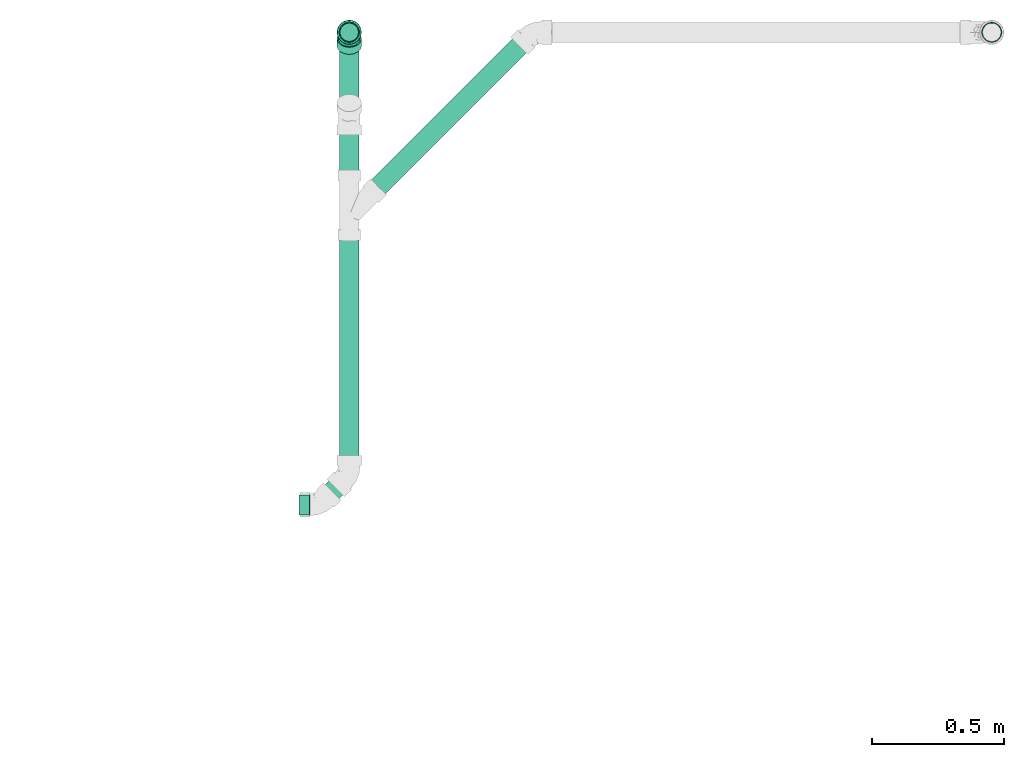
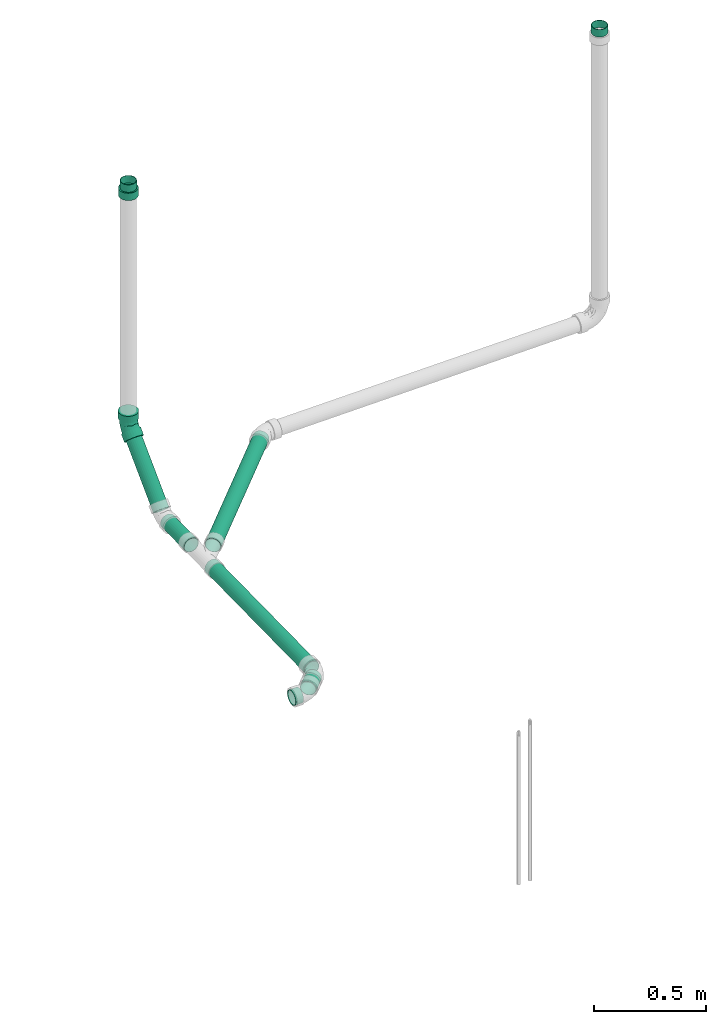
# One storey, part 8 of 18: 8 flow segments, 2 flow fittings.
"""IFC2X3 building model written with IfcOpenShell, lengths in millimetres."""

from ifc_helpers import new_model, entity, si_unit, converted_unit, derived_unit, direction, frame, origin_with_axes, origin_2d_with_axis, place, context, subcontext, project, spatial, hollow_circle, extrude, open_shell, surface_model, source, transform, mapped, type_object, element, save


model = new_model("IFC2X3")

# Units and contexts
model_context = context("Model", 3, precision=0.01, world=frame((0.0, 4.29681676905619e-09, 0.0)), true_north=direction((4.01073788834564e-13, 1.0)))
plan_context = context("Plan", 3, precision=0.01, world=frame((0.0, 4.29681676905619e-09, 0.0)), true_north=direction((4.01073788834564e-13, 1.0)))
body_context = subcontext(model_context, "Body", "Model", "MODEL_VIEW")
ifc_project = project(units=[converted_unit("PLANEANGLEUNIT", "DEGREE", entity("IfcPositiveLengthMeasure", 0.0174532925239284), si_unit("PLANEANGLEUNIT", "RADIAN"), dimensions=[0, 0, 0, 0, 0, 0, 0]), si_unit("AREAUNIT", "SQUARE_METRE"), si_unit("LENGTHUNIT", "METRE", prefix="MILLI"), si_unit("MASSUNIT", "GRAM", prefix="KILO"), si_unit("POWERUNIT", "WATT"), si_unit("PRESSUREUNIT", "PASCAL", prefix="KILO"), si_unit("FORCEUNIT", "NEWTON", prefix="KILO"), si_unit("ELECTRICVOLTAGEUNIT", "VOLT"), si_unit("ELECTRICCURRENTUNIT", "AMPERE"), si_unit("THERMODYNAMICTEMPERATUREUNIT", "DEGREE_CELSIUS"), si_unit("TIMEUNIT", "SECOND"), si_unit("VOLUMEUNIT", "CUBIC_METRE"), derived_unit("LINEARVELOCITYUNIT", [(si_unit("LENGTHUNIT", "METRE"), 1), (si_unit("TIMEUNIT", "SECOND"), -1)]), derived_unit("VOLUMETRICFLOWRATEUNIT", [(si_unit("VOLUMEUNIT", "CUBIC_METRE"), 1), (si_unit("TIMEUNIT", "SECOND"), -1)]), derived_unit("THERMALTRANSMITTANCEUNIT", [(si_unit("POWERUNIT", "WATT"), 1), (si_unit("THERMODYNAMICTEMPERATUREUNIT", "KELVIN"), -1), (si_unit("AREAUNIT", "SQUARE_METRE"), -1)]), derived_unit("SOUNDPRESSUREUNIT", [(si_unit("PRESSUREUNIT", "PASCAL"), 1)])], contexts=[model_context, plan_context])

# Site, building, storey
site_placement = place(None, frame((0.0, -4.29681676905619e-09, 0.0), z_axis=(0.0, 0.0, 1.0), x_axis=(1.0, 0.0, 0.0)))
site = spatial("IfcSite", under=ifc_project, at=site_placement, Name="ENGM", CompositionType="ELEMENT")
building_placement = place(site_placement, frame((0.0, 4.29681676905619e-09, 0.0), z_axis=(0.0, 0.0, 1.0), x_axis=(1.0, 0.0, 0.0)))
building = spatial("IfcBuilding", under=site, at=building_placement, Name="TI", CompositionType="ELEMENT")
storey_placement = place(building_placement, frame((0.0, 0.0, 204000.0), z_axis=(0.0, 0.0, 1.0), x_axis=(1.0, 0.0, 0.0)))
storey = spatial("IfcBuildingStorey", under=building, at=storey_placement, Name="Nivå D", CompositionType="ELEMENT", Elevation=204000.0)

# Flow fittings
pipe_fitting_type_1 = type_object("IfcPipeFittingType", Name="magi_sewer_bend_001", PredefinedType="BEND")
shared_shape_1 = source(origin_with_axes(), body_context, "Body", "SurfaceModel", [
    surface_model("IfcShellBasedSurfaceModel", [(-71.67262, -44.67407, -11.97038), (-71.67262, -11.97038, -44.67407), (-71.67262, -23.125, -40.05367), (-71.67262, -32.70369, -32.70369), (-71.67262, 0.0, -46.25), (-71.67262, -40.05367, -23.125), (-71.67262, -46.25, 0.0), (-71.67262, 11.97038, -44.67407), (-71.67262, 32.70369, -32.70369), (-71.67262, 23.125, -40.05367), (-71.67262, 44.67407, -11.97038), (-71.67262, 40.05367, -23.125), (-71.67262, -32.70369, 32.70369), (-71.67262, -44.67407, 11.97038), (-71.67262, -40.05367, 23.125), (-71.67262, 40.05367, 23.125), (-71.67262, -23.125, 40.05367), (-71.67262, -11.97038, 44.67407), (-71.67262, 0.0, 46.25), (-71.67262, 11.97038, 44.67407), (-71.67262, 44.67407, 11.97038), (-71.67262, 46.25, 0.0), (-71.67262, 23.125, 40.05367), (-71.67262, 32.70369, 32.70369), (-34.17262, 0.0, 46.25), (-34.17262, -11.97038, 44.67407), (-34.17262, -23.125, 40.05367), (-34.17262, -32.70369, 32.70369), (-34.17262, -40.05367, 23.125), (-34.17262, -44.67407, 11.97038), (-34.17262, 40.05367, 23.125), (-34.17262, -44.67407, -11.97038), (-34.17262, 23.125, 40.05367), (-34.17262, 32.70369, 32.70369), (-34.17262, 11.97038, 44.67407), (-34.17262, 44.67407, 11.97038), (-34.17262, 44.67407, -11.97038), (-34.17262, 46.25, 0.0), (-34.17262, -32.70369, -32.70369), (-34.17262, -40.05367, -23.125), (-34.17262, -23.125, -40.05367), (-34.17262, -11.97038, -44.67407), (-34.17262, 11.97038, -44.67407), (-34.17262, 32.70369, -32.70369), (-34.17262, 40.05367, -23.125), (-34.17262, 23.125, -40.05367), (-34.17262, 0.0, -46.25), (-34.17262, -46.25, 0.0), (22.35797, 79.00242, 23.125), (17.97651, 83.38388, 0.0), (19.09086, 82.26953, 11.97038), (34.32835, 67.03204, 40.05367), (27.55519, 73.8052, 32.70369), (42.21586, 59.14453, -44.67407), (67.03204, 34.32835, -40.05367), (42.21586, 59.14453, 44.67407), (19.09086, 82.26953, -11.97038), (27.55519, 73.8052, -32.70369), (22.35797, 79.00242, -23.125), (34.32835, 67.03204, -40.05367), (50.6802, 50.6802, 46.25), (59.14453, 42.21586, 44.67407), (67.03204, 34.32835, 40.05367), (73.8052, 27.55519, 32.70369), (79.00242, 22.35797, 23.125), (82.26953, 19.09086, 11.97038), (83.38388, 17.97651, 0.0), (59.14453, 42.21586, -44.67407), (50.6802, 50.6802, -46.25), (73.8052, 27.55519, -32.70369), (82.26953, 19.09086, -11.97038), (79.00242, 22.35797, -23.125), (40.51554, 7.81185, -40.05367), (56.86738, -8.54, 0.0), (55.75303, -7.42565, 11.97038), (52.48592, -4.15853, 23.125), (47.28869, 1.03869, 32.70369), (40.51554, 7.81185, 40.05367), (32.62803, 15.69935, 44.67407), (15.69935, 32.62803, 44.67407), (52.48592, -4.15853, -23.125), (47.28869, 1.03869, -32.70369), (55.75303, -7.42565, -11.97038), (32.62803, 15.69935, -44.67407), (15.69935, 32.62803, -44.67407), (24.16369, 24.16369, -46.25), (-7.42565, 55.75303, 11.97038), (7.81185, 40.51554, 40.05367), (-4.15853, 52.48592, 23.125), (1.03869, 47.28869, 32.70369), (-7.42565, 55.75303, -11.97038), (1.03869, 47.28869, -32.70369), (7.81185, 40.51554, -40.05367), (-4.15853, 52.48592, -23.125), (-8.54, 56.86738, 0.0), (24.16369, 24.16369, 46.25), (-34.17262, 10.67629, -39.84444), (-34.17262, 0.0, -41.25), (-34.17262, 35.72355, -20.625), (-34.17262, 20.625, -35.72355), (-34.17262, -10.67629, -39.84444), (-34.17262, 29.16816, -29.16816), (-34.17262, 39.84444, -10.67629), (-34.17262, -29.16816, -29.16816), (-34.17262, -35.72355, -20.625), (-34.17262, -20.625, -35.72355), (-34.17262, -39.84444, -10.67629), (-34.17262, -41.25, 0.0), (-34.17262, -39.84444, 10.67629), (-34.17262, 41.25, 0.0), (-34.17262, 35.72355, 20.625), (-34.17262, 39.84444, 10.67629), (-34.17262, 10.67629, 39.84444), (-34.17262, 20.625, 35.72355), (-34.17262, 29.16816, 29.16816), (-34.17262, -35.72355, 20.625), (-34.17262, -29.16816, 29.16816), (-34.17262, -10.67629, 39.84444), (-34.17262, -20.625, 35.72355), (-34.17262, 0.0, 41.25), (16.61442, 31.71296, -39.84444), (52.33797, -4.01058, -10.67629), (24.16369, 24.16369, -41.25), (9.57961, 38.74777, -35.72355), (3.53869, 44.78869, -29.16816), (-1.09667, 49.42405, -20.625), (-4.01058, 52.33797, -10.67629), (52.33797, -4.01058, 10.67629), (38.74777, 9.57961, -35.72355), (49.42405, -1.09667, -20.625), (44.78869, 3.53869, -29.16816), (31.71296, 16.61442, -39.84444), (53.33185, -5.00446, 0.0), (3.53869, 44.78869, 29.16816), (-5.00446, 53.33185, 0.0), (-4.01058, 52.33797, 10.67629), (-1.09667, 49.42405, 20.625), (9.57961, 38.74777, 35.72355), (16.61442, 31.71296, 39.84444), (24.16369, 24.16369, 41.25), (44.78869, 3.53869, 29.16816), (49.42405, -1.09667, 20.625), (31.71296, 16.61442, 39.84444), (38.74777, 9.57961, 35.72355), (10.50612, -25.36402, 22.98738), (-9.12592, -23.31355, 31.83011), (-13.32012, -31.54844, 24.15346), (-13.78242, -38.56558, 0.0), (-2.14376, -37.03332, 0.0), (-8.80455, -38.00287, 7.04384), (31.72686, -12.88936, 24.15346), (-16.3448, -15.12603, 37.70038), (4.23545, -10.22528, 37.18064), (1.2244, 24.79863, 38.50101), (7.45704, 19.5259, 40.65003), (-12.31128, -3.97165, 40.70351), (-3.92344, 9.47201, 41.10505), (-20.66814, 5.71607, 40.99967), (-11.71714, 28.28769, 33.67672), (-18.19114, 34.59421, 26.03152), (22.25324, 0.8618, 37.70038), (-15.84955, 17.16525, 38.56294), (15.91914, -26.99759, 16.25694), (-7.39626, -35.6875, 14.32507), (12.80708, -30.91902, 8.96571), (-16.99315, 41.02508, 16.94728), (33.09785, -20.64633, 7.04384), (37.01562, -17.52434, 0.0), (-16.52245, 44.20054, 8.66711), (30.46482, -20.00493, 14.32507), (11.51377, 5.89701, 40.70351), (22.93817, -10.03217, 31.83011), (-18.38693, 44.38997, 0.0), (6.92373, -16.71536, 32.89459), (12.77931, -30.85198, 0.0), (27.70238, -24.67064, 0.0), (-12.31128, -3.97165, -40.70351), (-8.80455, -38.00287, -7.04384), (12.80708, -30.91902, -8.96571), (11.51377, 5.89701, -40.70351), (-18.40106, 16.66949, -38.50101), (-19.07982, 8.53397, -40.65003), (-11.59873, 37.32487, -26.03152), (22.93817, -10.03217, -31.83011), (-16.99315, 41.02508, -16.94728), (30.46482, -20.00492, -14.32507), (-19.57136, 42.93764, -8.66711), (-0.93034, 23.34499, -38.56294), (-7.39626, -35.6875, -14.32507), (-11.71715, 28.28769, -33.67672), (-13.32012, -31.54844, -24.15346), (-9.12592, -23.31355, -31.83011), (6.92373, -16.71536, -32.89459), (10.50612, -25.36402, -22.98737), (-16.3448, -15.12603, -37.70038), (22.25324, 0.8618, -37.70038), (4.23545, -10.22528, -37.18064), (33.09785, -20.64633, -7.04384), (10.57272, 18.65645, -40.99967), (7.83365, -30.34671, -16.25694), (31.72686, -12.88936, -24.15346), (-3.92344, 9.47201, -41.10505)], [open_shell([[[0, 1, 2]], [[0, 2, 3]], [[1, 0, 4]], [[0, 3, 5]], [[4, 0, 6]], [[7, 8, 9]], [[8, 7, 4]], [[8, 10, 11]], [[10, 8, 4]], [[4, 6, 10]], [[6, 12, 10]], [[13, 14, 12]], [[10, 12, 15]], [[16, 17, 18]], [[16, 18, 12]], [[19, 12, 18]], [[10, 20, 21]], [[15, 20, 10]], [[15, 22, 23]], [[22, 15, 19]], [[12, 19, 15]], [[6, 13, 12]], [[24, 25, 26]], [[24, 26, 27]], [[27, 28, 29]], [[24, 27, 30]], [[27, 31, 30]], [[32, 30, 33]], [[30, 32, 34]], [[35, 36, 37]], [[30, 34, 24]], [[35, 30, 36]], [[27, 29, 31]], [[36, 30, 31]], [[38, 31, 39]], [[40, 41, 31]], [[40, 31, 38]], [[42, 31, 41]], [[36, 43, 44]], [[36, 31, 43]], [[43, 42, 45]], [[31, 42, 43]], [[41, 46, 42]], [[31, 29, 47]], [[36, 10, 37]], [[44, 11, 36]], [[9, 43, 45]], [[44, 43, 8]], [[7, 45, 42]], [[36, 11, 10]], [[10, 21, 37]], [[7, 9, 45]], [[8, 43, 9]], [[8, 11, 44]], [[4, 7, 42]], [[42, 46, 4]], [[46, 41, 1]], [[5, 39, 31]], [[39, 3, 38]], [[0, 31, 47]], [[1, 40, 2]], [[40, 1, 41]], [[40, 38, 2]], [[38, 3, 2]], [[39, 5, 3]], [[0, 5, 31]], [[47, 6, 0]], [[46, 1, 4]], [[29, 13, 47]], [[28, 14, 29]], [[16, 27, 26]], [[28, 27, 12]], [[17, 26, 25]], [[29, 14, 13]], [[13, 6, 47]], [[17, 16, 26]], [[12, 27, 16]], [[12, 14, 28]], [[18, 17, 25]], [[25, 24, 18]], [[33, 22, 32]], [[35, 15, 30]], [[33, 30, 23]], [[20, 35, 37]], [[32, 19, 34]], [[32, 22, 19]], [[19, 18, 34]], [[33, 23, 22]], [[30, 15, 23]], [[20, 15, 35]], [[37, 21, 20]], [[34, 18, 24]], [[48, 49, 50]], [[51, 48, 52]], [[53, 48, 54]], [[55, 48, 51]], [[48, 55, 54]], [[56, 57, 58]], [[56, 49, 48]], [[57, 53, 59]], [[53, 57, 56]], [[48, 53, 56]], [[55, 60, 61]], [[61, 62, 63]], [[63, 64, 55]], [[54, 64, 65]], [[55, 64, 54]], [[66, 54, 65]], [[53, 67, 68]], [[54, 67, 53]], [[69, 70, 71]], [[70, 69, 54]], [[66, 70, 54]], [[55, 61, 63]], [[72, 73, 74]], [[75, 72, 74]], [[76, 77, 78]], [[79, 72, 75]], [[76, 79, 75]], [[80, 72, 81]], [[72, 80, 82]], [[83, 84, 85]], [[72, 82, 73]], [[83, 72, 84]], [[79, 76, 78]], [[84, 72, 79]], [[86, 79, 87]], [[88, 86, 87]], [[88, 87, 89]], [[90, 79, 86]], [[84, 91, 92]], [[91, 84, 90]], [[91, 90, 93]], [[84, 79, 90]], [[86, 94, 90]], [[79, 78, 95]], [[84, 53, 85]], [[92, 59, 84]], [[58, 91, 93]], [[92, 91, 57]], [[56, 93, 90]], [[84, 59, 53]], [[53, 68, 85]], [[56, 58, 93]], [[57, 91, 58]], [[57, 59, 92]], [[49, 56, 90]], [[90, 94, 49]], [[94, 86, 50]], [[51, 87, 79]], [[87, 52, 89]], [[55, 79, 95]], [[50, 88, 48]], [[88, 50, 86]], [[88, 89, 48]], [[89, 52, 48]], [[87, 51, 52]], [[55, 51, 79]], [[95, 60, 55]], [[94, 50, 49]], [[78, 61, 95]], [[77, 62, 78]], [[64, 76, 75]], [[77, 76, 63]], [[65, 75, 74]], [[78, 62, 61]], [[61, 60, 95]], [[65, 64, 75]], [[63, 76, 64]], [[63, 62, 77]], [[66, 65, 74]], [[74, 73, 66]], [[81, 71, 80]], [[83, 54, 72]], [[81, 72, 69]], [[67, 83, 85]], [[80, 70, 82]], [[80, 71, 70]], [[70, 66, 82]], [[81, 69, 71]], [[72, 54, 69]], [[67, 54, 83]], [[85, 68, 67]], [[82, 66, 73]], [[96, 97, 98]], [[99, 96, 98]], [[100, 98, 97]], [[101, 99, 98]], [[102, 98, 100]], [[103, 104, 105]], [[100, 105, 104]], [[104, 106, 100]], [[106, 102, 100]], [[107, 108, 106]], [[109, 102, 106]], [[110, 111, 109]], [[108, 110, 106]], [[112, 113, 114]], [[108, 114, 110]], [[114, 108, 112]], [[115, 116, 108]], [[117, 108, 116]], [[118, 117, 116]], [[117, 112, 108]], [[117, 119, 112]], [[109, 106, 110]], [[120, 121, 122]], [[123, 121, 120]], [[124, 125, 126]], [[121, 123, 127]], [[127, 123, 124]], [[128, 129, 130]], [[128, 131, 122]], [[128, 121, 129]], [[122, 121, 128]], [[121, 127, 132]], [[133, 124, 126]], [[134, 135, 136]], [[134, 136, 133]], [[133, 137, 138]], [[133, 127, 124]], [[139, 133, 138]], [[127, 140, 141]], [[140, 127, 142]], [[140, 142, 143]], [[142, 127, 139]], [[127, 133, 139]], [[133, 126, 134]], [[144, 145, 146]], [[147, 148, 149]], [[118, 116, 145]], [[141, 140, 150]], [[151, 145, 152]], [[146, 145, 116]], [[138, 153, 154]], [[117, 118, 151]], [[155, 156, 157]], [[119, 117, 155]], [[114, 158, 159]], [[143, 142, 160]], [[157, 112, 119]], [[113, 161, 158]], [[108, 147, 149]], [[137, 133, 158]], [[162, 163, 164]], [[158, 114, 113]], [[116, 115, 146]], [[110, 159, 165]], [[111, 110, 165]], [[127, 166, 167]], [[168, 109, 111]], [[169, 162, 164]], [[163, 149, 164]], [[113, 112, 161]], [[139, 154, 170]], [[140, 143, 171]], [[136, 135, 165]], [[170, 142, 139]], [[144, 146, 163]], [[140, 171, 150]], [[156, 154, 153]], [[171, 143, 160]], [[115, 163, 146]], [[166, 127, 169]], [[144, 150, 171]], [[157, 161, 112]], [[144, 162, 150]], [[111, 165, 168]], [[115, 108, 163]], [[172, 168, 134]], [[145, 173, 152]], [[135, 168, 165]], [[152, 170, 155]], [[136, 165, 159]], [[152, 160, 170]], [[136, 159, 133]], [[156, 155, 170]], [[138, 137, 153]], [[153, 158, 161]], [[151, 155, 117]], [[110, 114, 159]], [[169, 127, 141]], [[169, 141, 150]], [[173, 144, 171]], [[133, 159, 158]], [[158, 153, 137]], [[156, 153, 161]], [[145, 151, 118]], [[155, 151, 152]], [[170, 160, 142]], [[171, 160, 152]], [[108, 107, 147]], [[164, 148, 174]], [[108, 149, 163]], [[148, 164, 149]], [[166, 164, 175]], [[167, 166, 175]], [[167, 132, 127]], [[164, 166, 169]], [[170, 154, 156]], [[139, 138, 154]], [[155, 157, 119]], [[161, 157, 156]], [[144, 173, 145]], [[171, 152, 173]], [[134, 168, 135]], [[168, 172, 109]], [[150, 162, 169]], [[163, 162, 144]], [[175, 164, 174]], [[100, 97, 176]], [[148, 177, 178]], [[122, 131, 179]], [[180, 181, 96]], [[98, 182, 101]], [[128, 130, 183]], [[184, 182, 98]], [[129, 121, 185]], [[102, 186, 184]], [[123, 120, 187]], [[106, 177, 147]], [[99, 180, 96]], [[177, 106, 188]], [[124, 189, 182]], [[188, 104, 190]], [[190, 103, 191]], [[103, 105, 191]], [[192, 193, 191]], [[106, 104, 188]], [[103, 190, 104]], [[194, 105, 100]], [[195, 179, 131]], [[126, 125, 184]], [[196, 194, 176]], [[109, 172, 186]], [[193, 190, 191]], [[134, 126, 186]], [[196, 176, 179]], [[124, 123, 189]], [[184, 98, 102]], [[125, 182, 184]], [[194, 191, 105]], [[187, 189, 123]], [[181, 176, 97]], [[189, 187, 180]], [[101, 189, 99]], [[121, 167, 197]], [[198, 120, 122]], [[195, 131, 128]], [[199, 185, 178]], [[130, 200, 183]], [[196, 195, 183]], [[130, 129, 200]], [[201, 198, 179]], [[200, 193, 183]], [[201, 179, 176]], [[197, 167, 175]], [[198, 187, 120]], [[201, 181, 180]], [[177, 188, 178]], [[193, 199, 190]], [[183, 192, 196]], [[129, 185, 200]], [[126, 184, 186]], [[193, 200, 185]], [[125, 124, 182]], [[101, 182, 189]], [[189, 180, 99]], [[201, 180, 187]], [[176, 194, 100]], [[191, 194, 196]], [[183, 195, 128]], [[179, 195, 196]], [[147, 177, 148]], [[147, 107, 106]], [[199, 178, 188]], [[197, 178, 185]], [[178, 175, 174]], [[121, 132, 167]], [[178, 197, 175]], [[121, 197, 185]], [[176, 181, 201]], [[97, 96, 181]], [[179, 198, 122]], [[187, 198, 201]], [[193, 192, 183]], [[191, 196, 192]], [[109, 186, 102]], [[186, 172, 134]], [[190, 199, 188]], [[185, 199, 193]], [[148, 178, 174]]])]),
])
flow_fitting_1_placement = place(storey_placement, frame((590977.08829, 578148.82029, 6306.83746000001), z_axis=(-1.0, 0.0, 0.0), x_axis=(0.0, 0.0, -1.0)))
element("IfcFlowFitting", 1, at=flow_fitting_1_placement, inside=storey, type_object=pipe_fitting_type_1, Name="magi_sewer_bend_001", context=body_context, shape_type="MappedRepresentation", body=[
    mapped(shared_shape_1, transform((0.0, 0.0, 0.0), scale=1.0)),
])
pipe_fitting_type_2 = type_object("IfcPipeFittingType", Name="magi_sewer_union_001", PredefinedType="CONNECTOR")
shared_shape_2 = source(origin_with_axes(), body_context, "Body", "SurfaceModel", [
    surface_model("IfcShellBasedSurfaceModel", [(0.0, 31.81981, 31.81981), (0.0, 38.97115, 22.5), (0.0, 22.5, 38.97115), (40.0, -31.81981, -31.81981), (40.0, -43.46666, -11.64686), (40.0, -38.97115, -22.5), (40.0, -38.97115, 22.5), (0.0, -38.97115, 22.5), (0.0, -43.46666, 11.64686), (40.0, -43.46666, 11.64686), (0.0, -45.0, 0.0), (0.0, -43.46666, -11.64686), (0.0, -38.97115, -22.5), (40.0, -11.64686, -43.46666), (0.0, -11.64686, -43.46666), (0.0, 0.0, -45.0), (40.0, 38.97115, -22.5), (0.0, 38.97115, -22.5), (0.0, 43.46666, -11.64686), (40.0, 43.46666, -11.64686), (0.0, 22.5, -38.97115), (0.0, 11.64686, -43.46666), (0.0, 31.81981, -31.81981), (0.0, -31.81981, -31.81981), (0.0, -22.5, -38.97115), (0.0, -22.5, 38.97115), (0.0, 43.46666, 11.64686), (0.0, 0.0, 45.0), (0.0, 11.64686, 43.46666), (0.0, -31.81981, 31.81981), (0.0, -11.64686, 43.46666), (0.0, 45.0, 0.0), (40.0, 0.0, -45.0), (40.0, 11.64686, -43.46666), (40.0, 22.5, -38.97115), (40.0, 31.81981, -31.81981), (40.0, -22.5, -38.97115), (40.0, -22.5, 38.97115), (40.0, -45.0, 0.0), (40.0, 43.46666, 11.64686), (40.0, 38.97115, 22.5), (40.0, 22.5, 38.97115), (40.0, 31.81981, 31.81981), (40.0, 0.0, 45.0), (40.0, 11.64686, 43.46666), (40.0, -31.81981, 31.81981), (40.0, -11.64686, 43.46666), (40.0, 45.0, 0.0)], [open_shell([[[0, 1, 2]], [[3, 4, 5]], [[6, 7, 8]], [[6, 8, 9]], [[4, 10, 11]], [[3, 5, 12]], [[13, 14, 15]], [[16, 17, 18]], [[16, 18, 19]], [[20, 21, 15]], [[22, 20, 15]], [[18, 17, 22]], [[15, 18, 22]], [[23, 18, 15]], [[14, 24, 15]], [[24, 23, 15]], [[12, 11, 23]], [[25, 23, 11]], [[11, 10, 25]], [[18, 23, 25]], [[18, 1, 26]], [[27, 1, 18]], [[2, 1, 27]], [[28, 2, 27]], [[7, 29, 10]], [[10, 8, 7]], [[30, 27, 25]], [[10, 29, 25]], [[18, 25, 27]], [[31, 18, 26]], [[32, 33, 34]], [[32, 34, 35]], [[35, 16, 19]], [[35, 19, 32]], [[32, 19, 3]], [[32, 36, 13]], [[32, 3, 36]], [[4, 3, 37]], [[37, 38, 4]], [[37, 3, 19]], [[39, 40, 19]], [[19, 40, 37]], [[37, 40, 41]], [[41, 40, 42]], [[43, 41, 44]], [[38, 45, 6]], [[6, 9, 38]], [[37, 43, 46]], [[37, 45, 38]], [[41, 43, 37]], [[47, 39, 19]], [[9, 10, 38]], [[29, 45, 37]], [[6, 45, 7]], [[25, 37, 46]], [[8, 10, 9]], [[30, 43, 27]], [[30, 25, 46]], [[29, 37, 25]], [[29, 7, 45]], [[43, 30, 46]], [[2, 44, 41]], [[42, 0, 41]], [[26, 40, 39]], [[42, 40, 1]], [[31, 39, 47]], [[27, 44, 28]], [[28, 44, 2]], [[41, 0, 2]], [[42, 1, 0]], [[26, 1, 40]], [[31, 26, 39]], [[44, 27, 43]], [[19, 31, 47]], [[22, 35, 34]], [[16, 35, 17]], [[20, 34, 33]], [[18, 31, 19]], [[21, 32, 15]], [[21, 20, 33]], [[22, 34, 20]], [[22, 17, 35]], [[32, 21, 33]], [[24, 13, 36]], [[3, 23, 36]], [[11, 5, 4]], [[10, 4, 38]], [[13, 24, 14]], [[36, 23, 24]], [[3, 12, 23]], [[11, 12, 5]], [[13, 15, 32]]])]),
])
flow_fitting_2_placement = place(storey_placement, frame((590977.08829, 578148.82029, 7591.83746000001), z_axis=(-1.0, 0.0, 0.0), x_axis=(0.0, 0.0, -1.0)))
element("IfcFlowFitting", 2, at=flow_fitting_2_placement, inside=storey, type_object=pipe_fitting_type_2, Name="magi_sewer_union_001", context=body_context, shape_type="MappedRepresentation", body=[
    mapped(shared_shape_2, transform((0.0, 0.0, 0.0), scale=1.0)),
])

# Flow segments
pipe_segment_type_1 = type_object("IfcPipeSegmentType", Name="MA", PredefinedType="RIGIDSEGMENT")
shared_shape_3 = source(origin_with_axes(), body_context, "Body", "SweptSolid", [
    extrude(hollow_circle(Radius=37.5, WallThickness=2.0, at=origin_2d_with_axis()), frame((0.0, 0.0, 0.0), z_axis=(1.0, 0.0, 0.0), x_axis=(0.0, 1.0, 0.0)), (0.0, 0.0, 1.0), 831.2),
])
flow_segment_1_placement = place(storey_placement, frame((591646.35956, 578124.34633, 6012.41591000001), z_axis=(0.707235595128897, -0.70694563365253, -0.00675899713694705), x_axis=(-0.706781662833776, -0.706781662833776, -0.0303209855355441)))
element("IfcFlowSegment", 3, at=flow_segment_1_placement, inside=storey, type_object=pipe_segment_type_1, Name="MA", context=body_context, shape_type="MappedRepresentation", body=[
    mapped(shared_shape_3, transform((0.0, 0.0, 0.0), scale=1.0)),
])
shared_shape_4 = source(origin_with_axes(), body_context, "Body", "SweptSolid", [
    extrude(hollow_circle(Radius=37.5, WallThickness=2.0, at=origin_2d_with_axis()), frame((0.0, 0.0, 0.0), z_axis=(1.0, 0.0, 0.0), x_axis=(0.0, 1.0, 0.0)), (0.0, 0.0, 1.0), 889.9),
])
flow_segment_2_placement = place(storey_placement, frame((590977.2116, 577403.6921, 5982.85076999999), z_axis=(-0.999656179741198, 0.000436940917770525, -0.0262170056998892), x_axis=(0.0, -0.999861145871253, -0.0166640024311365)))
element("IfcFlowSegment", 4, at=flow_segment_2_placement, inside=storey, type_object=pipe_segment_type_1, Name="MA", context=body_context, shape_type="MappedRepresentation", body=[
    mapped(shared_shape_4, transform((0.0, 0.0, 0.0), scale=1.0)),
])
shared_shape_5 = source(origin_with_axes(), body_context, "Body", "SweptSolid", [
    extrude(hollow_circle(Radius=37.5, WallThickness=2.0, at=origin_2d_with_axis()), frame((0.0, 0.0, 0.0), z_axis=(1.0, 0.0, 0.0), x_axis=(0.0, 1.0, 0.0)), (0.0, 0.0, 1.0), 94.1),
])
flow_segment_3_placement = place(storey_placement, frame((590953.0552, 576455.6147, 5966.88271000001), z_axis=(0.707169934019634, -0.707009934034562, -0.00690199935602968), x_axis=(-0.707010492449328, -0.707008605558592, -0.0165829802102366)))
element("IfcFlowSegment", 5, at=flow_segment_3_placement, inside=storey, type_object=pipe_segment_type_1, Name="MA", context=body_context, shape_type="MappedRepresentation", body=[
    mapped(shared_shape_5, transform((0.0, 0.0, 0.0), scale=1.0)),
])
shared_shape_6 = source(origin_with_axes(), body_context, "Body", "SweptSolid", [
    extrude(hollow_circle(Radius=37.5, WallThickness=2.0, at=origin_2d_with_axis()), frame((0.0, 0.0, 0.0), z_axis=(1.0, 0.0, 0.0), x_axis=(0.0, 1.0, 0.0)), (0.0, 0.0, 1.0), 40.8),
])
flow_segment_4_placement = place(storey_placement, frame((590828.23733, 576364.95908, 5964.18393999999), z_axis=(0.000111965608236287, -0.99997770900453, -0.0066759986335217), x_axis=(-0.999859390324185, 0.0, -0.0167690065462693)))
element("IfcFlowSegment", 6, at=flow_segment_4_placement, inside=storey, type_object=pipe_segment_type_1, Name="MA", context=body_context, shape_type="MappedRepresentation", body=[
    mapped(shared_shape_6, transform((0.0, 0.0, 0.0), scale=1.0)),
])
shared_shape_7 = source(origin_with_axes(), body_context, "Body", "SweptSolid", [
    extrude(hollow_circle(Radius=37.5, WallThickness=2.0, at=origin_2d_with_axis()), frame((0.0, 0.0, 0.0), z_axis=(1.0, 0.0, 0.0), x_axis=(0.0, 1.0, 0.0)), (0.0, 0.0, 1.0), 380.6),
])
flow_segment_5_placement = place(storey_placement, frame((590977.2116, 578124.6566, 6282.67376999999), z_axis=(0.0, -0.707106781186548, 0.707106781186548), x_axis=(0.0, -0.707106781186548, -0.707106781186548)))
element("IfcFlowSegment", 7, at=flow_segment_5_placement, inside=storey, type_object=pipe_segment_type_1, Name="MA", context=body_context, shape_type="MappedRepresentation", body=[
    mapped(shared_shape_7, transform((0.0, 0.0, 0.0), scale=1.0)),
])
shared_shape_8 = source(origin_with_axes(), body_context, "Body", "SweptSolid", [
    extrude(hollow_circle(Radius=37.5, WallThickness=2.0, at=origin_2d_with_axis()), frame((0.0, 0.0, 0.0), z_axis=(1.0, 0.0, 0.0), x_axis=(0.0, 1.0, 0.0)), (0.0, 0.0, 1.0), 210.2),
])
flow_segment_6_placement = place(storey_placement, frame((590977.2116, 577588.40746, 5985.92934999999), z_axis=(-0.999656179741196, 0.000437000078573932, -0.0262170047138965), x_axis=(5.04684726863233e-07, 0.999861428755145, 0.016647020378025)))
element("IfcFlowSegment", 8, at=flow_segment_6_placement, inside=storey, type_object=pipe_segment_type_1, Name="MA", context=body_context, shape_type="MappedRepresentation", body=[
    mapped(shared_shape_8, transform((0.0, 0.0, 0.0), scale=1.0)),
])
pipe_segment_type_2 = type_object("IfcPipeSegmentType", Name="PP avløpsrør", PredefinedType="RIGIDSEGMENT")
shared_shape_9 = source(origin_with_axes(), body_context, "Body", "SweptSolid", [
    extrude(hollow_circle(Radius=37.5, WallThickness=2.0, at=origin_2d_with_axis()), frame((0.0, 0.0, 0.0), z_axis=(1.0, 0.0, 0.0), x_axis=(0.0, 1.0, 0.0)), (0.0, 0.0, 1.0), 40.4),
])
flow_segment_7_placement = place(storey_placement, frame((593402.06545, 578148.46815, 7588.08744999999), z_axis=(0.0, 0.999999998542, 5.3999999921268e-05), x_axis=(0.0, -5.3999999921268e-05, 0.999999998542)))
element("IfcFlowSegment", 9, at=flow_segment_7_placement, inside=storey, type_object=pipe_segment_type_2, Name="PP avløpsrør", context=body_context, shape_type="MappedRepresentation", body=[
    mapped(shared_shape_9, transform((0.0, 0.0, 0.0), scale=1.0)),
])
flow_segment_8_placement = place(storey_placement, frame((590977.08829, 578148.82029, 7591.83746000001), z_axis=(0.0, -1.0, 0.0), x_axis=(0.0, 0.0, 1.0)))
element("IfcFlowSegment", 10, at=flow_segment_8_placement, inside=storey, type_object=pipe_segment_type_1, Name="MA", context=body_context, shape_type="MappedRepresentation", body=[
    mapped(shared_shape_9, transform((0.0, 0.0, 0.0), scale=1.0)),
])

save(model, "model.ifc")
